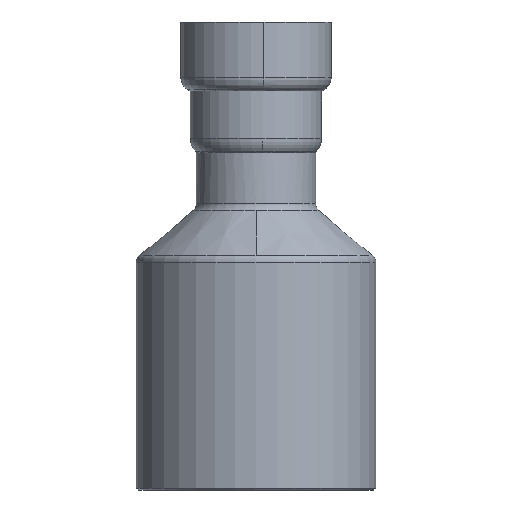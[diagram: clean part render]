
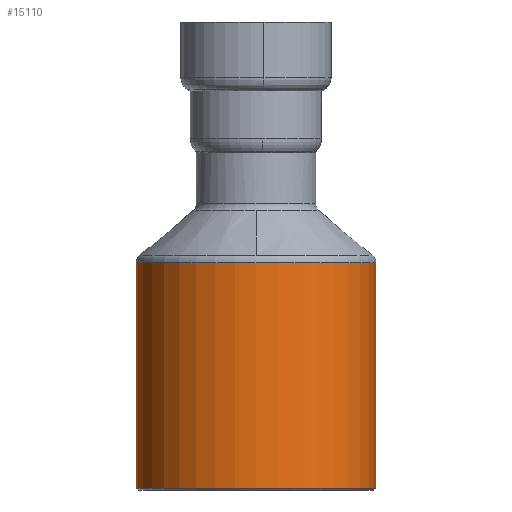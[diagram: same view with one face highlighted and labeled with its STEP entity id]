
A CAD part, front view. The second image highlights one B-rep face of the part: STEP entity #15110.
In plain terms, the highlighted cylindrical face has radius 30.175 mm (diameter 60.35 mm), a partial arc.
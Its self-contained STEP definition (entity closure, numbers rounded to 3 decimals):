
#540=CARTESIAN_POINT('',(133.578,42.47,
-30.007));
#550=DIRECTION('',(1.,0.,0.));
#560=VECTOR('',#550,1.);
#570=LINE('',#540,#560);
#580=CARTESIAN_POINT('',(103.186,42.47,
-30.007));
#590=VERTEX_POINT('',#580);
#600=CARTESIAN_POINT('',(159.828,42.47,
-30.007));
#610=VERTEX_POINT('',#600);
#620=EDGE_CURVE('',#590,#610,#570,.T.);
#640=CARTESIAN_POINT('',(159.828,39.288,
0.));
#650=DIRECTION('',(1.,0.,0.));
#660=DIRECTION('',(0.,-0.105,
0.994));
#670=AXIS2_PLACEMENT_3D('',#640,#650,#660);
#680=CIRCLE('',#670,30.175);
#730=CARTESIAN_POINT('',(159.828,36.106,
30.007));
#740=VERTEX_POINT('',#730);
#770=CARTESIAN_POINT('',(133.578,36.106,
30.007));
#780=DIRECTION('',(1.,0.,0.));
#790=VECTOR('',#780,1.);
#800=LINE('',#770,#790);
#810=CARTESIAN_POINT('',(103.186,36.106,
30.007));
#820=VERTEX_POINT('',#810);
#830=EDGE_CURVE('',#820,#740,#800,.T.);
#850=CARTESIAN_POINT('',(103.186,39.288,
0.));
#860=DIRECTION('',(1.,0.,0.));
#870=DIRECTION('',(0.,-0.105,
0.994));
#880=AXIS2_PLACEMENT_3D('',#850,#860,#870);
#890=CIRCLE('',#880,30.175);
#3200=CARTESIAN_POINT('',(159.828,9.281,
-3.182));
#3210=VERTEX_POINT('',#3200);
#3240=EDGE_CURVE('',#740,#3210,#680,.T.);
#13040=EDGE_CURVE('',#3210,#610,#680,.T.);
#14980=CARTESIAN_POINT('',(133.578,39.288,
0.));
#14990=DIRECTION('',(1.,0.,0.));
#15000=DIRECTION('',(0.,-0.105,
0.994));
#15010=AXIS2_PLACEMENT_3D('',#14980,#14990,#15000);
#15020=CYLINDRICAL_SURFACE('',#15010,30.175);
#15030=EDGE_CURVE('',#820,#590,#890,.T.);
#15040=ORIENTED_EDGE('',*,*,#15030,.T.);
#15050=ORIENTED_EDGE('',*,*,#830,.F.);
#15060=ORIENTED_EDGE('',*,*,#3240,.F.);
#15070=ORIENTED_EDGE('',*,*,#13040,.F.);
#15080=ORIENTED_EDGE('',*,*,#620,.T.);
#15090=EDGE_LOOP('',(#15080,#15070,#15060,#15050,#15040));
#15100=FACE_OUTER_BOUND('',#15090,.T.);
#15110=ADVANCED_FACE('',(#15100),#15020,.T.);
